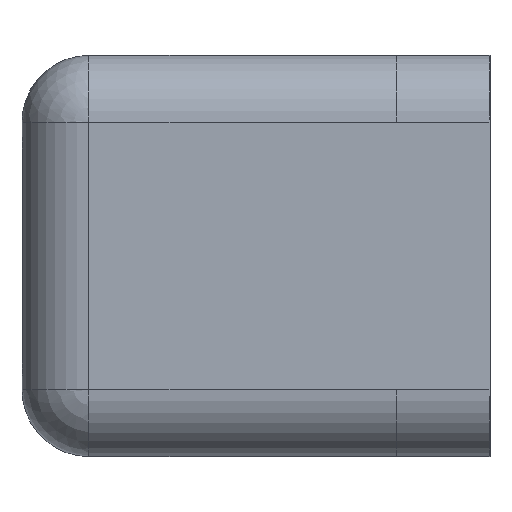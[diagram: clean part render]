
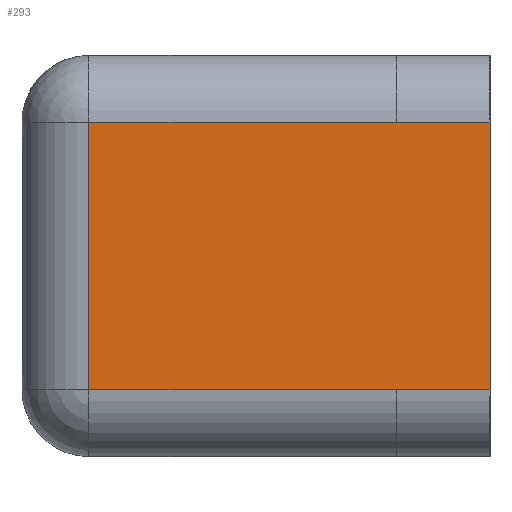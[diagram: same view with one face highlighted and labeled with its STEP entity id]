
A CAD part, front view. The second image highlights one B-rep face of the part: STEP entity #293.
In plain terms, the highlighted planar face has unit normal (0, -1, 0).
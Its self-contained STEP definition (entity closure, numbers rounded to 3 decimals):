
#15 = LINE ( 'NONE', #327, #1402 ) ;
#49 = PLANE ( 'NONE',  #1496 ) ;
#66 = CARTESIAN_POINT ( 'NONE',  ( -23., -37., 5. ) ) ;
#86 = ORIENTED_EDGE ( 'NONE', *, *, #1770, .T. ) ;
#110 = ORIENTED_EDGE ( 'NONE', *, *, #1254, .T. ) ;
#117 = CARTESIAN_POINT ( 'NONE',  ( 0., -37., 25. ) ) ;
#183 = DIRECTION ( 'NONE',  ( -1., 0., 0. ) ) ;
#276 = DIRECTION ( 'NONE',  ( -1., 0., 0. ) ) ;
#293 = ADVANCED_FACE ( 'NONE', ( #343 ), #49, .T. ) ;
#310 = VERTEX_POINT ( 'NONE', #928 ) ;
#327 = CARTESIAN_POINT ( 'NONE',  ( -70.426, -37., 25. ) ) ;
#343 = FACE_OUTER_BOUND ( 'NONE', #1498, .T. ) ;
#391 = DIRECTION ( 'NONE',  ( 0., 0., -1. ) ) ;
#398 = EDGE_CURVE ( 'NONE', #1683, #1548, #1600, .T. ) ;
#406 = VECTOR ( 'NONE', #1118, 1000. ) ;
#429 = CARTESIAN_POINT ( 'NONE',  ( 0., -37., 5. ) ) ;
#446 = EDGE_CURVE ( 'NONE', #450, #1683, #1010, .T. ) ;
#450 = VERTEX_POINT ( 'NONE', #66 ) ;
#479 = DIRECTION ( 'NONE',  ( 0., -1., 0. ) ) ;
#533 = VECTOR ( 'NONE', #276, 1000. ) ;
#544 = ORIENTED_EDGE ( 'NONE', *, *, #1795, .T. ) ;
#655 = CARTESIAN_POINT ( 'NONE',  ( 7., -37., 5. ) ) ;
#739 = LINE ( 'NONE', #1557, #533 ) ;
#790 = VERTEX_POINT ( 'NONE', #117 ) ;
#822 = CARTESIAN_POINT ( 'NONE',  ( 7., -37., 0. ) ) ;
#897 = LINE ( 'NONE', #1112, #1224 ) ;
#928 = CARTESIAN_POINT ( 'NONE',  ( 7., -37., 25. ) ) ;
#979 = EDGE_CURVE ( 'NONE', #310, #790, #15, .T. ) ;
#1010 = LINE ( 'NONE', #1497, #1533 ) ;
#1112 = CARTESIAN_POINT ( 'NONE',  ( -23., -37., 0. ) ) ;
#1118 = DIRECTION ( 'NONE',  ( 0., 0., 1. ) ) ;
#1142 = VERTEX_POINT ( 'NONE', #1175 ) ;
#1151 = LINE ( 'NONE', #822, #406 ) ;
#1175 = CARTESIAN_POINT ( 'NONE',  ( -23., -37., 25. ) ) ;
#1209 = DIRECTION ( 'NONE',  ( 1., 0., 0. ) ) ;
#1224 = VECTOR ( 'NONE', #391, 1000. ) ;
#1254 = EDGE_CURVE ( 'NONE', #790, #1142, #739, .T. ) ;
#1297 = VECTOR ( 'NONE', #1392, 1000. ) ;
#1340 = CARTESIAN_POINT ( 'NONE',  ( -70.426, -37., 30. ) ) ;
#1392 = DIRECTION ( 'NONE',  ( 1., 0., 0. ) ) ;
#1402 = VECTOR ( 'NONE', #183, 1000. ) ;
#1420 = CARTESIAN_POINT ( 'NONE',  ( 7., -37., 5. ) ) ;
#1447 = ORIENTED_EDGE ( 'NONE', *, *, #979, .T. ) ;
#1487 = DIRECTION ( 'NONE',  ( 0., 0., -1. ) ) ;
#1496 = AXIS2_PLACEMENT_3D ( 'NONE', #1340, #479, #1487 ) ;
#1497 = CARTESIAN_POINT ( 'NONE',  ( 7., -37., 5. ) ) ;
#1498 = EDGE_LOOP ( 'NONE', ( #86, #1447, #110, #544, #1617, #1779 ) ) ;
#1533 = VECTOR ( 'NONE', #1209, 1000. ) ;
#1548 = VERTEX_POINT ( 'NONE', #1420 ) ;
#1557 = CARTESIAN_POINT ( 'NONE',  ( -70.426, -37., 25. ) ) ;
#1600 = LINE ( 'NONE', #655, #1297 ) ;
#1617 = ORIENTED_EDGE ( 'NONE', *, *, #446, .T. ) ;
#1683 = VERTEX_POINT ( 'NONE', #429 ) ;
#1770 = EDGE_CURVE ( 'NONE', #1548, #310, #1151, .T. ) ;
#1779 = ORIENTED_EDGE ( 'NONE', *, *, #398, .T. ) ;
#1795 = EDGE_CURVE ( 'NONE', #1142, #450, #897, .T. ) ;
